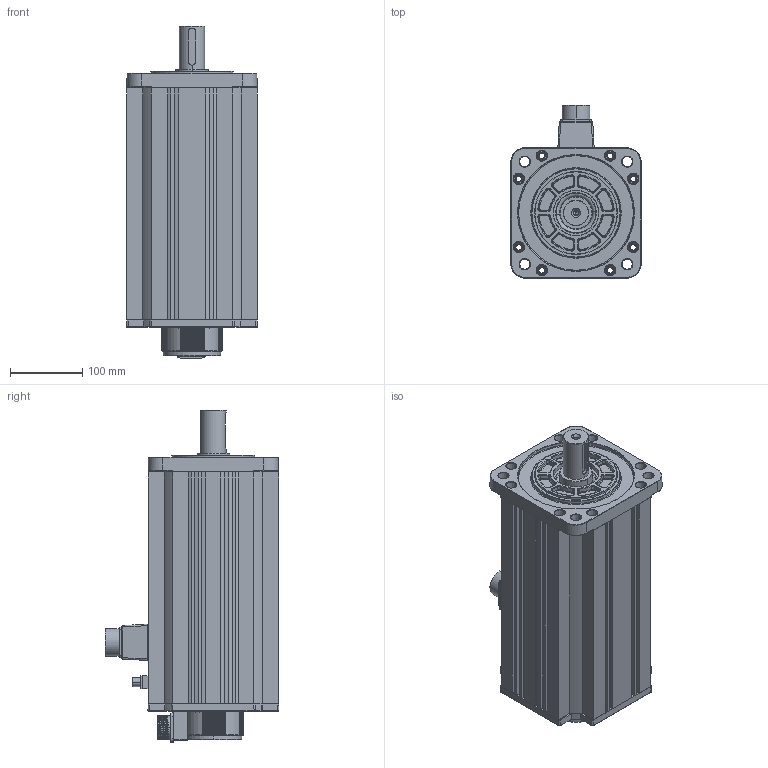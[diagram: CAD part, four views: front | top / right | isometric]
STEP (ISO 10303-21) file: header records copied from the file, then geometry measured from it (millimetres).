
FILE_DESCRIPTION (( 'STEP AP203' ), '1' );
FILE_NAME ('180ZF1500RPM7.5KWBZ.STEP', '2024-08-03T09:30:53', ( 'MicroSoft' ), ( 'MicroSoft' ), 'SwSTEP 2.0', 'SolidWorks 2020', '' );
FILE_SCHEMA (( 'CONFIG_CONTROL_DESIGN' ));
Length unit declared in the file: millimetre
Products named in the file (17): Z180-01-04(180-5.5bk儂褲)_7.5kw秶雄; Z130A-01-03(编码器后罩壳封盖）; 180綴傷裔X 蜊(1); 180ヶ粣創; 180伺服电机全系类BLC制动转子轴_3KW; 秶雄ん菜遴; Z180-01-16(堤盄碟); 180陔癹弇釱躇猾菜2(1); Z航插15芯（公头电机端）28; 180前端盖确定版(1)X; 180ZF1500RPM7.5KWBZ; 180-4郋萇埭; Z130A-01-02(编码器后罩壳）; 180陔癹弇釱(1); H12秶雄ん菁釱; GB╱T 276-2013[两面带密封圈（非接触式）的深沟球轴承[60000-2RZ]6206-2RZ]_6206-2RZ; 180呿蹋晤鎢ん欶褲
Assembly tree (16 placements, depth 3):
  180ZF1500RPM7.5KWBZ
    180ヶ粣創
    180前端盖确定版(1)X
    180綴傷裔X 蜊(1)
    180呿蹋晤鎢ん欶褲
      Z130A-01-02(编码器后罩壳）
    Z航插15芯（公头电机端）28
    Z130A-01-03(编码器后罩壳封盖）
    Z180-01-04(180-5.5bk儂褲)_7.5kw秶雄
    Z180-01-16(堤盄碟)
    180-4郋萇埭
    H12秶雄ん菁釱
    秶雄ん菜遴
    180陔癹弇釱(1)
    180陔癹弇釱躇猾菜2(1)
    180伺服电机全系类BLC制动转子轴_3KW
    GB╱T 276-2013[两面带密封圈（非接触式）的深沟球轴承[60000-2RZ]6206-2RZ]_6206-2RZ
Bounding box: 180.33 x 239.17 x 458 mm (x, y, z)
Volume: 3032452.2 mm3; surface area: 923901.8 mm2
Topology: 30 solids, 30 shells, 3657 faces, 8797 edges, 5207 vertices
Faces by surface type: cylinder 1139, plane 746, bspline 678, torus 548, cone 304, sphere 242
Entity records: 136908 total; most frequent: CARTESIAN_POINT 54684, ORIENTED_EDGE 16980, DIRECTION 16837, EDGE_CURVE 8490, AXIS2_PLACEMENT_3D 7019, VERTEX_POINT 5108, EDGE_LOOP 4054, CIRCLE 4020
